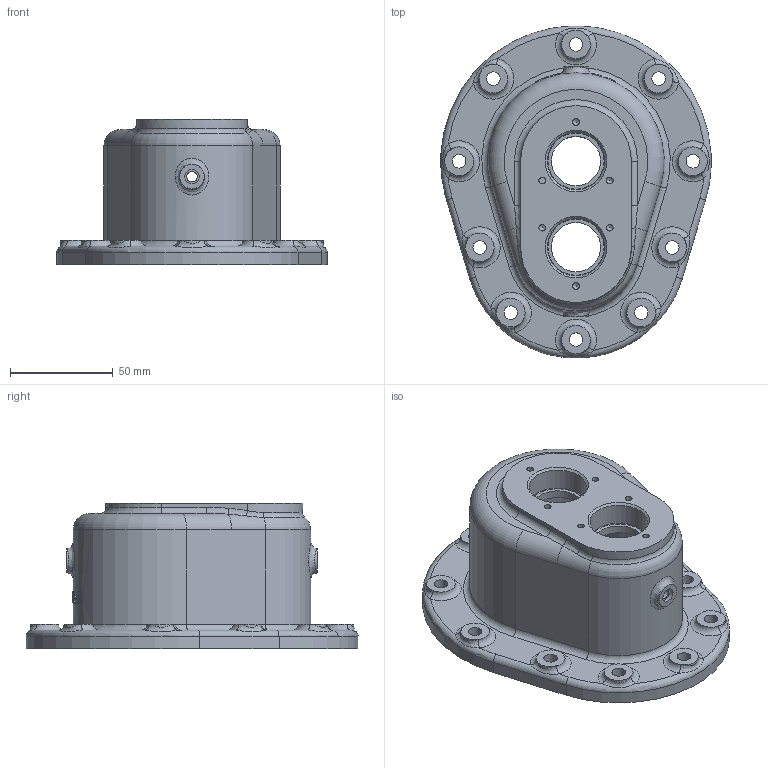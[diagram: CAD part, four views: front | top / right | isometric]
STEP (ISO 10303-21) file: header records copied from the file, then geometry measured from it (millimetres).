
FILE_DESCRIPTION(/* description */ (''),/* implementation_level */ '2;1');
FILE_NAME(/* name */ '',/* time_stamp */ '2026-07-31T13:49:20+09:00',/* author */ ('jhkim'),/* organization */ (''),/* preprocessor_version */ 'ST-DEVELOPER v20.1',/* originating_system */ 'Autodesk Inventor 2027',/* authorisation */ '');
FILE_SCHEMA (('AUTOMOTIVE_DESIGN { 1 0 10303 214 3 1 1 }'));
Length unit declared in the file: millimetre
Products named in the file (1): 본체
Bounding box: 131.91 x 161.95 x 71 mm (x, y, z)
Volume: 286128.8 mm3; surface area: 80620.8 mm2
Topology: 1 solids, 1 shells, 349 faces, 876 edges, 557 vertices
Faces by surface type: plane 126, bspline 105, cylinder 84, torus 25, cone 9
Full cylindrical faces by diameter (mm): 3.242 x6, 5.188 x2, 6.6 x10, 7 x2, 24 x3, 28 x4, 29.4 x1
Entity records: 12727 total; most frequent: CARTESIAN_POINT 4754, ORIENTED_EDGE 1740, DIRECTION 1459, EDGE_CURVE 870, VERTEX_POINT 557, AXIS2_PLACEMENT_3D 553, EDGE_LOOP 413, LINE 353
